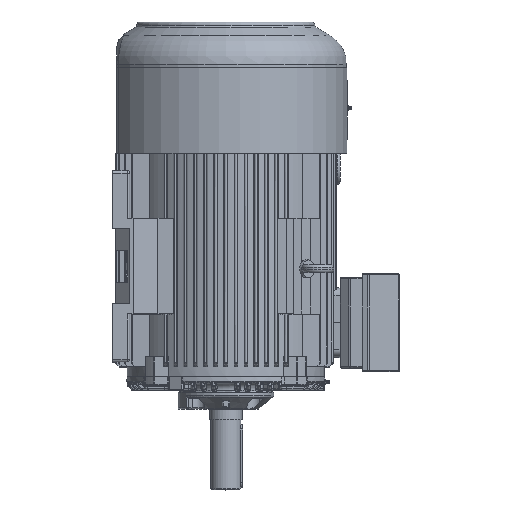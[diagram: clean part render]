
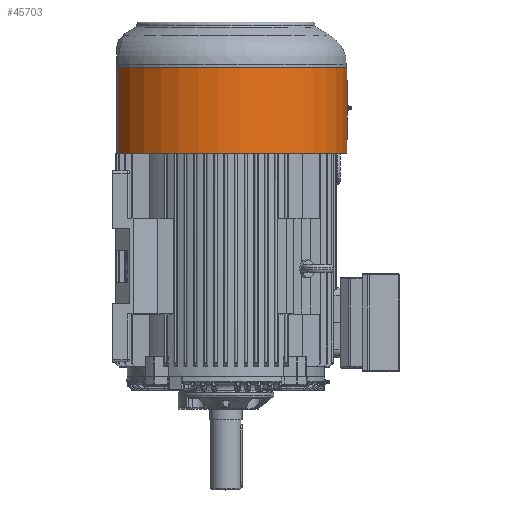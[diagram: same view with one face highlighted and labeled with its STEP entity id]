
A CAD part, top view. The second image highlights one B-rep face of the part: STEP entity #45703.
In plain terms, the highlighted cylindrical face has radius 241.5 mm (diameter 483 mm), a partial arc.
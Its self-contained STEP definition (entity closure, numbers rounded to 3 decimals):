
#1468=ELLIPSE('',#49226,483.,241.5);
#1469=ELLIPSE('',#49228,483.,241.5);
#1470=ELLIPSE('',#49232,483.,241.5);
#1471=ELLIPSE('',#49234,483.,241.5);
#3184=CIRCLE('',#49221,241.5);
#3186=CIRCLE('',#49224,241.5);
#3187=CIRCLE('',#49230,241.5);
#3196=CIRCLE('',#49253,241.5);
#3889=CYLINDRICAL_SURFACE('',#49252,241.5);
#12668=ORIENTED_EDGE('',*,*,#17762,.F.);
#12669=ORIENTED_EDGE('',*,*,#17763,.T.);
#12670=ORIENTED_EDGE('',*,*,#17734,.T.);
#12671=ORIENTED_EDGE('',*,*,#17764,.F.);
#12672=ORIENTED_EDGE('',*,*,#17752,.T.);
#12673=ORIENTED_EDGE('',*,*,#17736,.T.);
#12674=ORIENTED_EDGE('',*,*,#17740,.T.);
#12675=ORIENTED_EDGE('',*,*,#17743,.T.);
#12676=ORIENTED_EDGE('',*,*,#17746,.T.);
#12677=ORIENTED_EDGE('',*,*,#17749,.T.);
#17734=EDGE_CURVE('',#20715,#20714,#3184,.T.);
#17736=EDGE_CURVE('',#20716,#20717,#3186,.F.);
#17740=EDGE_CURVE('',#20717,#20720,#1468,.F.);
#17743=EDGE_CURVE('',#20720,#20722,#1469,.F.);
#17746=EDGE_CURVE('',#20722,#20724,#3187,.F.);
#17749=EDGE_CURVE('',#20724,#20726,#1470,.F.);
#17752=EDGE_CURVE('',#20726,#20716,#1471,.F.);
#17762=EDGE_CURVE('',#20736,#20737,#3196,.T.);
#17763=EDGE_CURVE('',#20736,#20715,#22888,.T.);
#17764=EDGE_CURVE('',#20737,#20714,#22889,.T.);
#20714=VERTEX_POINT('',#76527);
#20715=VERTEX_POINT('',#76529);
#20716=VERTEX_POINT('',#76533);
#20717=VERTEX_POINT('',#76534);
#20720=VERTEX_POINT('',#76546);
#20722=VERTEX_POINT('',#76556);
#20724=VERTEX_POINT('',#76566);
#20726=VERTEX_POINT('',#76576);
#20736=VERTEX_POINT('',#76618);
#20737=VERTEX_POINT('',#76619);
#22888=LINE('',#76620,#24932);
#22889=LINE('',#76621,#24933);
#24932=VECTOR('',#58238,1000.);
#24933=VECTOR('',#58239,1000.);
#26925=EDGE_LOOP('',(#12668,#12669,#12670,#12671));
#26926=EDGE_LOOP('',(#12672,#12673,#12674,#12675,#12676,#12677));
#29050=FACE_BOUND('',#26925,.T.);
#29051=FACE_BOUND('',#26926,.T.);
#45703=ADVANCED_FACE('',(#29050,#29051),#3889,.T.);
#49221=AXIS2_PLACEMENT_3D('',#76528,#58166,#58167);
#49224=AXIS2_PLACEMENT_3D('',#76532,#58172,#58173);
#49226=AXIS2_PLACEMENT_3D('',#76545,#58178,#58179);
#49228=AXIS2_PLACEMENT_3D('',#76555,#58183,#58184);
#49230=AXIS2_PLACEMENT_3D('',#76565,#58188,#58189);
#49232=AXIS2_PLACEMENT_3D('',#76575,#58193,#58194);
#49234=AXIS2_PLACEMENT_3D('',#76585,#58198,#58199);
#49252=AXIS2_PLACEMENT_3D('',#76616,#58234,#58235);
#49253=AXIS2_PLACEMENT_3D('',#76617,#58236,#58237);
#58166=DIRECTION('',(0.,1.,0.));
#58167=DIRECTION('',(0.,0.,-1.));
#58172=DIRECTION('',(0.,1.,0.));
#58173=DIRECTION('',(-1.,0.,0.));
#58178=DIRECTION('',(0.,0.5,-0.866));
#58179=DIRECTION('',(0.,-0.866,-0.5));
#58183=DIRECTION('',(0.,-0.5,-0.866));
#58184=DIRECTION('',(0.,-0.866,0.5));
#58188=DIRECTION('',(0.,-1.,0.));
#58189=DIRECTION('',(1.,0.,0.));
#58193=DIRECTION('',(0.,-0.5,0.866));
#58194=DIRECTION('',(0.,-0.866,-0.5));
#58198=DIRECTION('',(0.,0.5,0.866));
#58199=DIRECTION('',(0.,-0.866,0.5));
#58234=DIRECTION('',(0.,-1.,0.));
#58235=DIRECTION('',(-1.,0.,0.));
#58236=DIRECTION('',(0.,1.,0.));
#58237=DIRECTION('',(0.,0.,-1.));
#58238=DIRECTION('',(0.,-1.,0.));
#58239=DIRECTION('',(0.,-1.,0.));
#76527=CARTESIAN_POINT('',(-212.75,444.5,-114.279));
#76528=CARTESIAN_POINT('',(0.,444.5,0.));
#76529=CARTESIAN_POINT('',(-212.75,444.5,114.279));
#76532=CARTESIAN_POINT('',(0.,529.,0.));
#76533=CARTESIAN_POINT('',(241.479,529.,-3.175));
#76534=CARTESIAN_POINT('',(241.479,529.,3.175));
#76545=CARTESIAN_POINT('',(0.,523.5,0.));
#76546=CARTESIAN_POINT('',(241.416,534.5,6.351));
#76555=CARTESIAN_POINT('',(0.,545.5,0.));
#76556=CARTESIAN_POINT('',(241.479,540.,3.175));
#76565=CARTESIAN_POINT('',(0.,540.,0.));
#76566=CARTESIAN_POINT('',(241.479,540.,-3.175));
#76575=CARTESIAN_POINT('',(0.,545.5,0.));
#76576=CARTESIAN_POINT('',(241.416,534.5,-6.351));
#76585=CARTESIAN_POINT('',(0.,523.5,0.));
#76616=CARTESIAN_POINT('',(0.,614.5,0.));
#76617=CARTESIAN_POINT('',(0.,614.5,0.));
#76618=CARTESIAN_POINT('',(-212.75,614.5,114.279));
#76619=CARTESIAN_POINT('',(-212.75,614.5,-114.279));
#76620=CARTESIAN_POINT('',(-212.75,1186.785,114.279));
#76621=CARTESIAN_POINT('',(-212.75,1186.785,-114.279));
